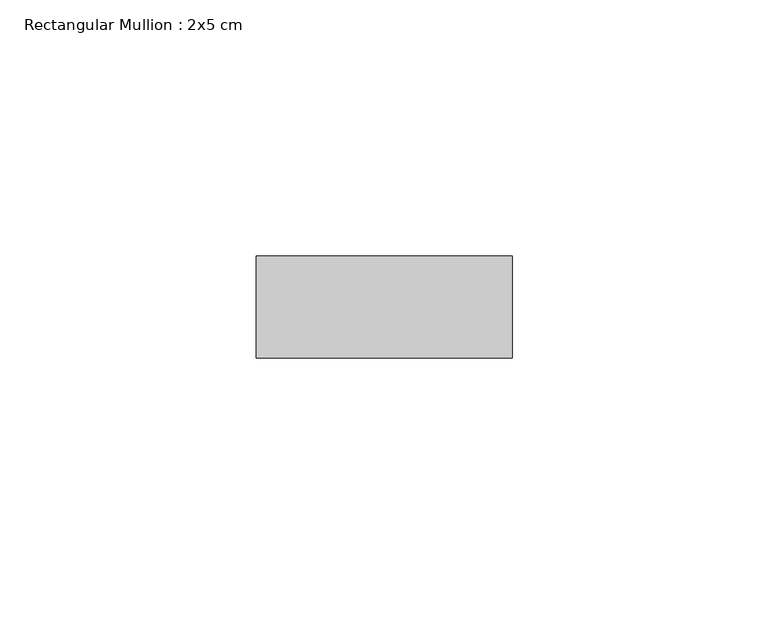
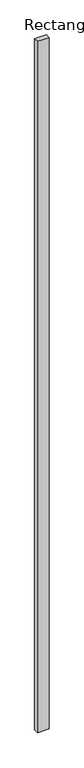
"""IFC4 building model written with IfcOpenShell, lengths in millimetres: member geometry, Rectangular Mullion : 2x5 cm."""

from ifc_helpers import new_model, si_unit, frame, origin, place, context, project, spatial, polyline, outline, extrude, source, transform, mapped, element, save


def rectangular_mullion_2x5_cm_f80bb5d9(model_context):
    return source(origin(), model_context, "Body", "SweptSolid", [
        extrude(outline(polyline([(50.0, 20.0), (50.0, 0.0), (0.0, 0.0), (0.0, 20.0), (50.0, 20.0)])), frame((0.0, 0.0, -3133.9182225), z_axis=(0.0, 0.0, 1.0), x_axis=(1.0, 0.0, 0.0)), (0.0, 0.0, 1.0), 3133.9182225),
    ])


if __name__ == "__main__":
    model = new_model("IFC4")
    model_context = context("Model", 3, world=origin())
    ifc_project = project(units=[si_unit("LENGTHUNIT", "METRE", prefix="MILLI")], contexts=[model_context])
    site = spatial("IfcSite", under=ifc_project)
    building = spatial("IfcBuilding", under=site)
    placement = place(None, origin())
    rectangular_mullion_2x5_cm_shape = rectangular_mullion_2x5_cm_f80bb5d9(model_context)
    element("IfcMember", 1, ObjectType="Rectangular Mullion : 2x5 cm", at=placement, inside=building, context=model_context, shape_type="MappedRepresentation", body=[
        mapped(rectangular_mullion_2x5_cm_shape, transform((0.0, 0.0, 0.0), x_axis=(1.0, 0.0, 0.0), y_axis=(0.0, 1.0, 0.0), z_axis=(0.0, 0.0, 1.0))),
    ])
    save(model, "model.ifc")
